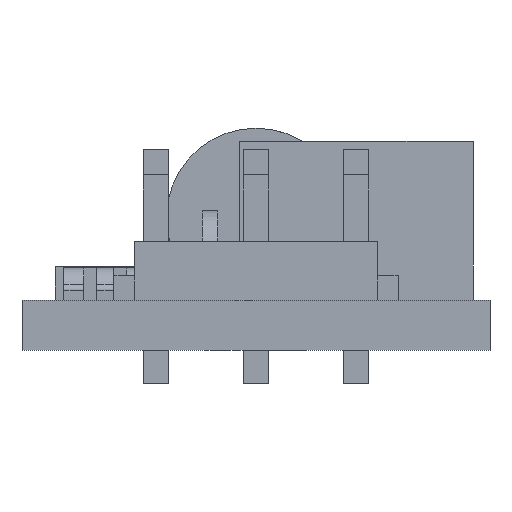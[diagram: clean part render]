
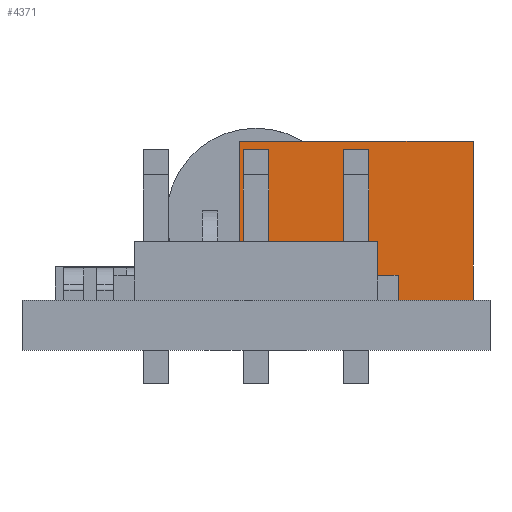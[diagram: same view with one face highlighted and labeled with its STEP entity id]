
A CAD part, front view. The second image highlights one B-rep face of the part: STEP entity #4371.
In plain terms, the highlighted planar face has unit normal (0, -1, 0).
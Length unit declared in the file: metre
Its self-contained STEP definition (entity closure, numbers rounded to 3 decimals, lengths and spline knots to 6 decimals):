
#741=ORIENTED_EDGE('',*,*,#1444,.T.);
#742=ORIENTED_EDGE('',*,*,#1727,.F.);
#743=ORIENTED_EDGE('',*,*,#1732,.F.);
#744=ORIENTED_EDGE('',*,*,#1730,.T.);
#1444=EDGE_CURVE('',#2044,#2042,#2427,.T.);
#1727=EDGE_CURVE('',#2231,#2042,#2667,.T.);
#1730=EDGE_CURVE('',#2233,#2044,#2670,.T.);
#1732=EDGE_CURVE('',#2233,#2231,#2672,.T.);
#2042=VERTEX_POINT('',#7280);
#2044=VERTEX_POINT('',#7283);
#2231=VERTEX_POINT('',#7858);
#2233=VERTEX_POINT('',#7866);
#2427=LINE('',#7282,#2933);
#2667=LINE('',#7859,#3173);
#2670=LINE('',#7865,#3176);
#2672=LINE('',#7869,#3178);
#2933=VECTOR('',#6020,1.);
#3173=VECTOR('',#6558,1.);
#3176=VECTOR('',#6565,1.);
#3178=VECTOR('',#6569,1.);
#3484=EDGE_LOOP('',(#741,#742,#743,#744));
#3756=FACE_BOUND('',#3484,.T.);
#3988=PLANE('',#5746);
#4371=ADVANCED_FACE('',(#3756),#3988,.F.);
#5746=AXIS2_PLACEMENT_3D('',#7868,#6567,#6568);
#6020=DIRECTION('',(1.,0.,0.));
#6558=DIRECTION('',(0.,0.,-1.));
#6565=DIRECTION('',(0.,0.,-1.));
#6567=DIRECTION('',(0.,1.,0.));
#6568=DIRECTION('',(0.,0.,1.));
#6569=DIRECTION('',(1.,0.,0.));
#7280=CARTESIAN_POINT('',(0.006604,-0.003175,0.000762));
#7282=CARTESIAN_POINT('',(-0.000508,-0.003175,0.000762));
#7283=CARTESIAN_POINT('',(-0.000508,-0.003175,0.000762));
#7858=CARTESIAN_POINT('',(0.006604,-0.003175,0.005588));
#7859=CARTESIAN_POINT('',(0.006604,-0.003175,0.005588));
#7865=CARTESIAN_POINT('',(-0.000508,-0.003175,0.005588));
#7866=CARTESIAN_POINT('',(-0.000508,-0.003175,0.005588));
#7868=CARTESIAN_POINT('',(-0.000508,-0.003175,0.005588));
#7869=CARTESIAN_POINT('',(-0.000508,-0.003175,0.005588));
